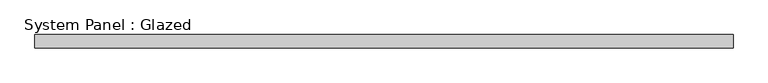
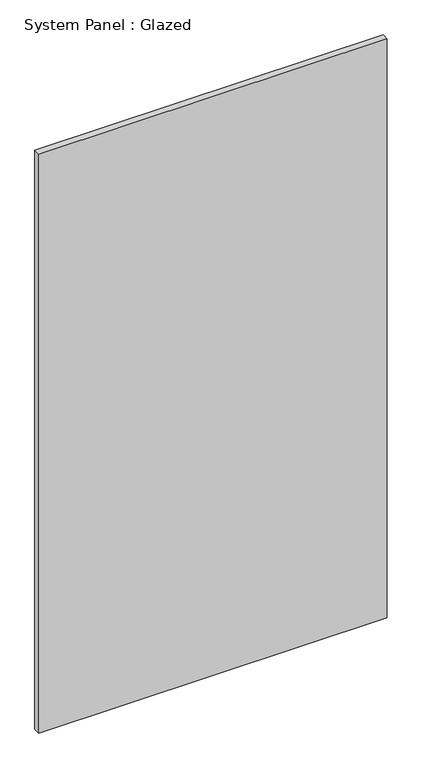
"""IFC4 building model written with IfcOpenShell, lengths in millimetres: plate geometry, System Panel : Glazed."""

from ifc_helpers import new_model, si_unit, origin, origin_with_axes, place, context, project, spatial, polyline, outline, extrude, source, transform, mapped, element, save


def system_panel_glazed_658de9b2(model_context):
    return source(origin(), model_context, "Body", "SweptSolid", [
        extrude(outline(polyline([(662.5000001, 24.5), (-662.5000001, 24.5), (-662.5000001, 49.5), (662.5000001, 49.5), (662.5000001, 24.5)])), origin_with_axes(), (0.0, 0.0, 1.0), 2325.0),
    ])


if __name__ == "__main__":
    model = new_model("IFC4")
    model_context = context("Model", 3, world=origin())
    ifc_project = project(units=[si_unit("LENGTHUNIT", "METRE", prefix="MILLI")], contexts=[model_context])
    site = spatial("IfcSite", under=ifc_project)
    building = spatial("IfcBuilding", under=site)
    placement = place(None, origin())
    system_panel_glazed_shape = system_panel_glazed_658de9b2(model_context)
    element("IfcPlate", 1, ObjectType="System Panel : Glazed", at=placement, inside=building, context=model_context, shape_type="MappedRepresentation", body=[
        mapped(system_panel_glazed_shape, transform((0.0, 0.0, 0.0), x_axis=(1.0, 0.0, 0.0), y_axis=(0.0, 1.0, 0.0), z_axis=(0.0, 0.0, 1.0))),
    ])
    save(model, "model.ifc")
